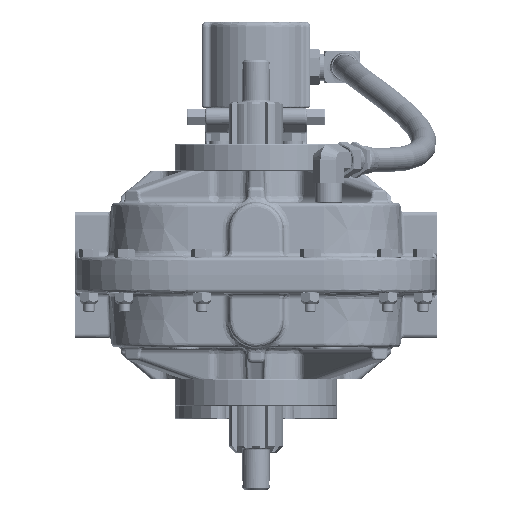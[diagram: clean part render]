
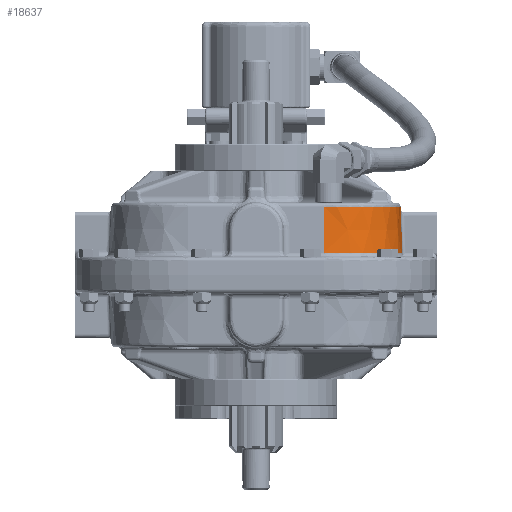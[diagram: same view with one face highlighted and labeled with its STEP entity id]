
A CAD part, front view. The second image highlights one B-rep face of the part: STEP entity #18637.
In plain terms, the highlighted conical face has half-angle 2 degrees and reference radius 55.076 mm.
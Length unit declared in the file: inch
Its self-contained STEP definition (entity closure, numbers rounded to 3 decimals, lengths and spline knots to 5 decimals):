
#346 = ORIENTED_EDGE ( 'NONE', *, *, #127009, .T. ) ;
#510 = DIRECTION ( 'NONE',  ( 0., 0., 1. ) ) ;
#1952 = CARTESIAN_POINT ( 'NONE',  ( 4.02619, -17.786, 1.37 ) ) ;
#5479 = ORIENTED_EDGE ( 'NONE', *, *, #139077, .T. ) ;
#5709 = AXIS2_PLACEMENT_3D ( 'NONE', #139202, #36379, #156407 ) ;
#9368 = DIRECTION ( 'NONE',  ( 0., 1., 0. ) ) ;
#11605 = VECTOR ( 'NONE', #171901, 39.37008 ) ;
#18637 = ADVANCED_FACE ( 'NONE', ( #144383 ), #184365, .T. ) ;
#22380 = LINE ( 'NONE', #81857, #11605 ) ;
#28064 = CIRCLE ( 'NONE', #5709, 2.12404 ) ;
#28205 = EDGE_CURVE ( 'NONE', #159885, #66568, #22380, .T. ) ;
#28649 = ORIENTED_EDGE ( 'NONE', *, *, #28205, .F. ) ;
#36379 = DIRECTION ( 'NONE',  ( 0., 0., -1. ) ) ;
#44392 = CARTESIAN_POINT ( 'NONE',  ( 4.00404, -17.786, 2.00419 ) ) ;
#58717 = CIRCLE ( 'NONE', #193077, 2.16834 ) ;
#60756 = LINE ( 'NONE', #1952, #100952 ) ;
#66568 = VERTEX_POINT ( 'NONE', #166702 ) ;
#71383 = EDGE_LOOP ( 'NONE', ( #5479, #153653, #28649, #346 ) ) ;
#76660 = DIRECTION ( 'NONE',  ( 0., 0., -1. ) ) ;
#81857 = CARTESIAN_POINT ( 'NONE',  ( 1.88, -19.906, 2.12 ) ) ;
#82494 = CARTESIAN_POINT ( 'NONE',  ( 1.88, -17.786, 0.73581 ) ) ;
#100952 = VECTOR ( 'NONE', #139178, 39.37008 ) ;
#103261 = CARTESIAN_POINT ( 'NONE',  ( 1.88, -17.786, 0.73581 ) ) ;
#110065 = EDGE_CURVE ( 'NONE', #132333, #66568, #28064, .T. ) ;
#120499 = DIRECTION ( 'NONE',  ( -0.02, -1., 0. ) ) ;
#126205 = CARTESIAN_POINT ( 'NONE',  ( 1.88, -19.95434, 0.73581 ) ) ;
#127009 = EDGE_CURVE ( 'NONE', #159885, #212749, #58717, .T. ) ;
#132333 = VERTEX_POINT ( 'NONE', #44392 ) ;
#139077 = EDGE_CURVE ( 'NONE', #212749, #132333, #60756, .T. ) ;
#139178 = DIRECTION ( 'NONE',  ( -0.035, 0., 0.999 ) ) ;
#139202 = CARTESIAN_POINT ( 'NONE',  ( 1.88, -17.786, 2.00419 ) ) ;
#144383 = FACE_OUTER_BOUND ( 'NONE', #71383, .T. ) ;
#153653 = ORIENTED_EDGE ( 'NONE', *, *, #110065, .T. ) ;
#156407 = DIRECTION ( 'NONE',  ( -1., 0., 0. ) ) ;
#159885 = VERTEX_POINT ( 'NONE', #126205 ) ;
#166702 = CARTESIAN_POINT ( 'NONE',  ( 1.88, -19.91004, 2.00419 ) ) ;
#166983 = CARTESIAN_POINT ( 'NONE',  ( 4.04834, -17.786, 0.73581 ) ) ;
#171597 = AXIS2_PLACEMENT_3D ( 'NONE', #82494, #76660, #9368 ) ;
#171901 = DIRECTION ( 'NONE',  ( 0., 0.035, 0.999 ) ) ;
#184365 = CONICAL_SURFACE ( 'NONE', #171597, 2.16834, 0.035 ) ;
#193077 = AXIS2_PLACEMENT_3D ( 'NONE', #103261, #510, #120499 ) ;
#212749 = VERTEX_POINT ( 'NONE', #166983 ) ;
